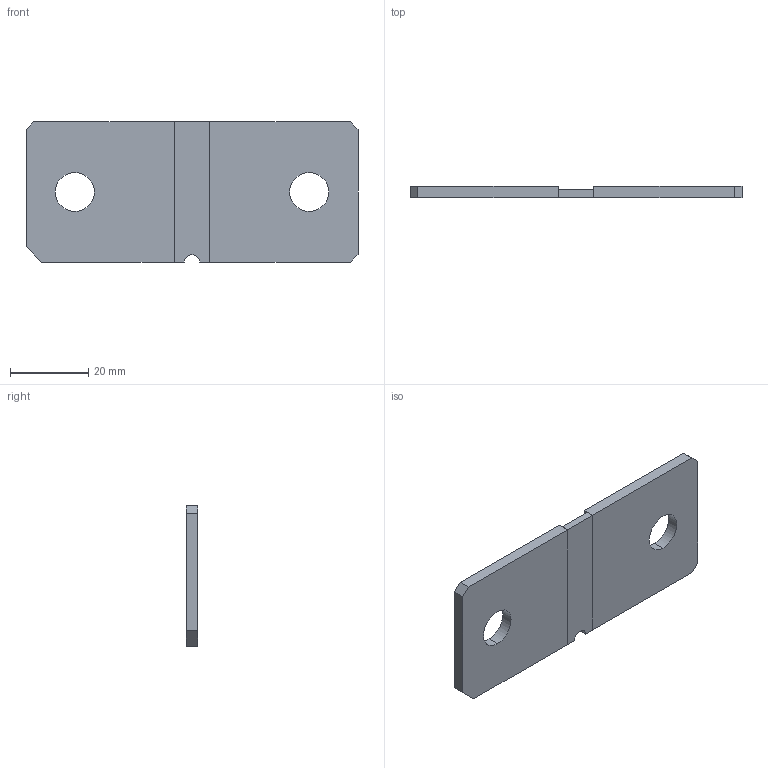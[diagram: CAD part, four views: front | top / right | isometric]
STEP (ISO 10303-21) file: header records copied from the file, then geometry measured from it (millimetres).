
FILE_DESCRIPTION (( 'STEP AP214' ), '1' );
FILE_NAME ('WSBS8536 50 microohm.STEP', '2021-03-09T15:35:52', ( '' ), ( '' ), 'SwSTEP 2.0', 'SolidWorks 2019', '' );
FILE_SCHEMA (( 'AUTOMOTIVE_DESIGN' ));
Length unit declared in the file: inch
Products named in the file (4): Element WSBS 8536 50 microohm; Right Terminal WSBS 8536 50 microohm; WSBS8536 50 microohm; Left Terminal WSBS 8536 50 microohm
Assembly tree (3 placements, depth 2):
  WSBS8536 50 microohm
    Element WSBS 8536 50 microohm
    Left Terminal WSBS 8536 50 microohm
    Right Terminal WSBS 8536 50 microohm
Bounding box: 84.99 x 3 x 35.99 mm (x, y, z)
Volume: 8308.1 mm3; surface area: 7003.2 mm2
Topology: 3 solids, 3 shells, 29 faces, 69 edges, 46 vertices
Faces by surface type: plane 23, cylinder 6
Entity records: 1017 total; most frequent: DIRECTION 151, CARTESIAN_POINT 150, ORIENTED_EDGE 138, EDGE_CURVE 69, VECTOR 57, LINE 57, AXIS2_PLACEMENT_3D 47, VERTEX_POINT 46
